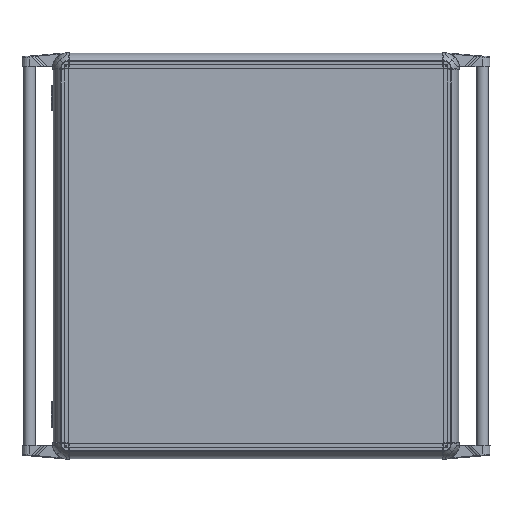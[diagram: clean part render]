
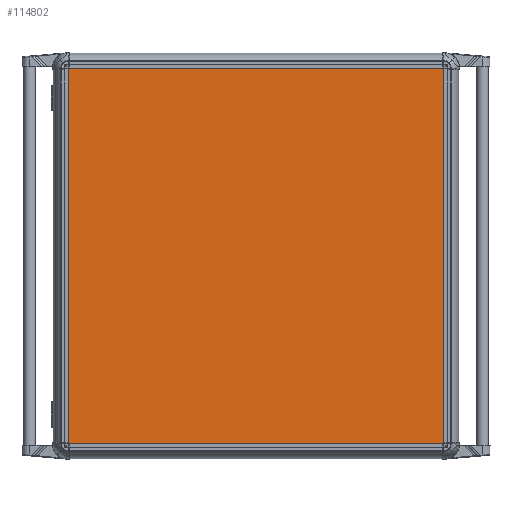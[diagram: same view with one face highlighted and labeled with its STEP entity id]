
A CAD part, top view. The second image highlights one B-rep face of the part: STEP entity #114802.
In plain terms, the highlighted planar face has unit normal (0, 0, 1).
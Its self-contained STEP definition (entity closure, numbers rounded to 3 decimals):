
#434 = DIRECTION ( 'NONE',  ( -1., 0., 0. ) ) ;
#8927 = EDGE_CURVE ( 'NONE', #138591, #182083, #92234, .T. ) ;
#11914 = VECTOR ( 'NONE', #174483, 1000. ) ;
#12174 = PLANE ( 'NONE',  #79524 ) ;
#19346 = LINE ( 'NONE', #187596, #11914 ) ;
#31215 = CARTESIAN_POINT ( 'NONE',  ( 0., 0., 2. ) ) ;
#31533 = CARTESIAN_POINT ( 'NONE',  ( -300., 300., 2. ) ) ;
#37115 = CARTESIAN_POINT ( 'NONE',  ( -300., -300., 2. ) ) ;
#44571 = LINE ( 'NONE', #31533, #101701 ) ;
#50236 = DIRECTION ( 'NONE',  ( 0., 1., 0. ) ) ;
#63811 = CARTESIAN_POINT ( 'NONE',  ( 300., 300., 2. ) ) ;
#64202 = CARTESIAN_POINT ( 'NONE',  ( 300., 300., 2. ) ) ;
#70072 = DIRECTION ( 'NONE',  ( 1., 0., 0. ) ) ;
#72506 = VECTOR ( 'NONE', #50236, 1000. ) ;
#79524 = AXIS2_PLACEMENT_3D ( 'NONE', #31215, #194428, #135405 ) ;
#81312 = CARTESIAN_POINT ( 'NONE',  ( -300., -300., 2. ) ) ;
#90203 = FACE_OUTER_BOUND ( 'NONE', #163210, .T. ) ;
#92234 = LINE ( 'NONE', #64202, #72506 ) ;
#97335 = EDGE_CURVE ( 'NONE', #182083, #184203, #44571, .T. ) ;
#100093 = LINE ( 'NONE', #37115, #166010 ) ;
#101701 = VECTOR ( 'NONE', #434, 1000. ) ;
#113697 = ORIENTED_EDGE ( 'NONE', *, *, #8927, .T. ) ;
#114802 = ADVANCED_FACE ( 'NONE', ( #90203 ), #12174, .T. ) ;
#114920 = EDGE_CURVE ( 'NONE', #132489, #138591, #100093, .T. ) ;
#123120 = ORIENTED_EDGE ( 'NONE', *, *, #114920, .T. ) ;
#132489 = VERTEX_POINT ( 'NONE', #81312 ) ;
#135405 = DIRECTION ( 'NONE',  ( 1., 0., 0. ) ) ;
#138591 = VERTEX_POINT ( 'NONE', #163090 ) ;
#161932 = ORIENTED_EDGE ( 'NONE', *, *, #97335, .T. ) ;
#163090 = CARTESIAN_POINT ( 'NONE',  ( 300., -300., 2. ) ) ;
#163210 = EDGE_LOOP ( 'NONE', ( #113697, #161932, #172802, #123120 ) ) ;
#166010 = VECTOR ( 'NONE', #70072, 1000. ) ;
#166444 = EDGE_CURVE ( 'NONE', #184203, #132489, #19346, .T. ) ;
#172802 = ORIENTED_EDGE ( 'NONE', *, *, #166444, .T. ) ;
#174483 = DIRECTION ( 'NONE',  ( 0., -1., 0. ) ) ;
#174535 = CARTESIAN_POINT ( 'NONE',  ( -300., 300., 2. ) ) ;
#182083 = VERTEX_POINT ( 'NONE', #63811 ) ;
#184203 = VERTEX_POINT ( 'NONE', #174535 ) ;
#187596 = CARTESIAN_POINT ( 'NONE',  ( -300., 300., 2. ) ) ;
#194428 = DIRECTION ( 'NONE',  ( 0., 0., 1. ) ) ;
